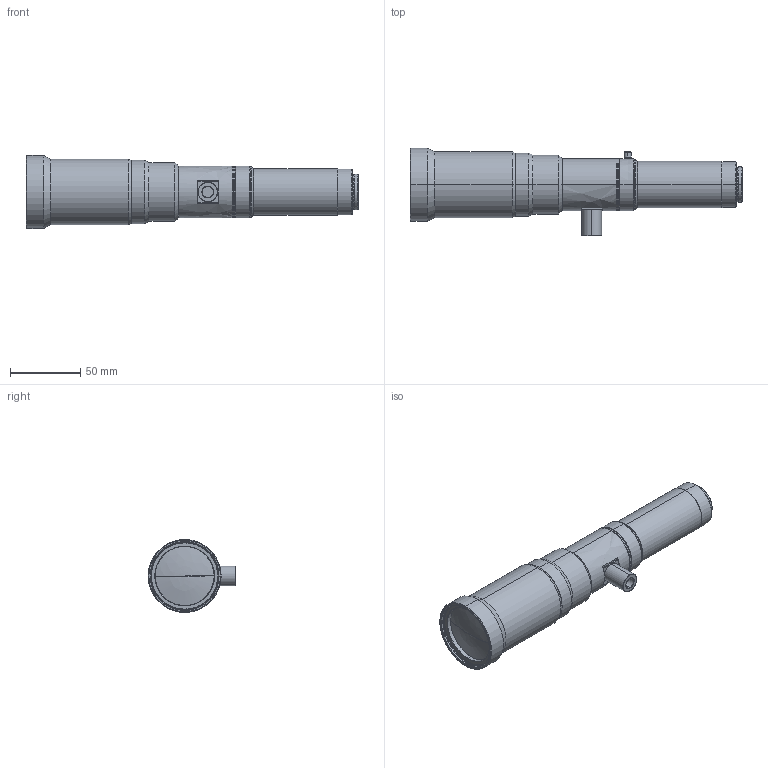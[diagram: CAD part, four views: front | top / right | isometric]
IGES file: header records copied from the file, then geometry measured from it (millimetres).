
Start section: SolidWorks IGES file using analytic representation for surfaces
Bounding box: 236.47 x 62.5 x 52 mm (x, y, z)
Surface area: 43180.7 mm2 (no closed solid volume)
Topology: 0 solids, 0 shells, 186 faces, 3200 edges, 3198 vertices
Faces by surface type: revolution 148, bspline 38
